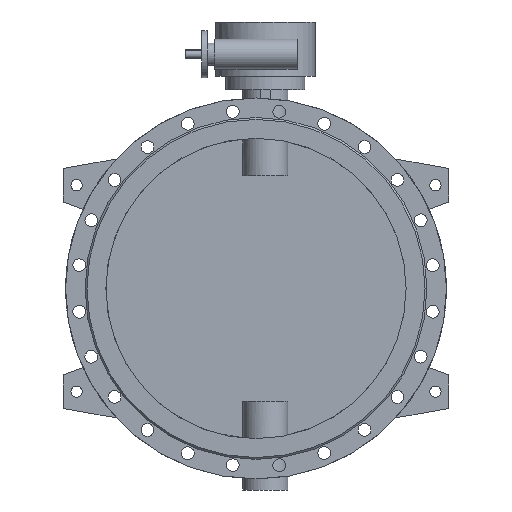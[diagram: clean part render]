
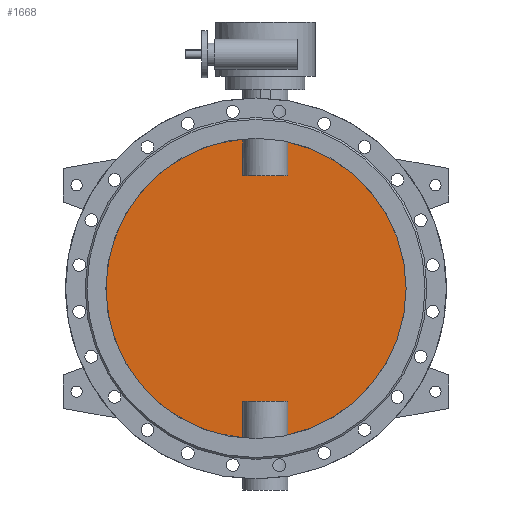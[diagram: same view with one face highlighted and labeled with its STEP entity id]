
A CAD part, front view. The second image highlights one B-rep face of the part: STEP entity #1668.
In plain terms, the highlighted planar face has unit normal (0, -1, 0).
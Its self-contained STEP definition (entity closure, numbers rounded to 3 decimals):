
#1668=ADVANCED_FACE('',(#3500),#3502,.F.);
#3500=FACE_BOUND('',#3501,.T.);
#3501=EDGE_LOOP('',(#4394,#4395,#4396,#4397,#4398,#4399,#4400,#4401));
#3502=PLANE('',#3503);
#3503=AXIS2_PLACEMENT_3D('',#3504,#3505,#3506);
#3504=CARTESIAN_POINT('',(0.,-5.,0.));
#3505=DIRECTION('',(0.,1.,0.));
#3506=DIRECTION('',(1.,0.,0.));
#4394=ORIENTED_EDGE('',*,*,#4841,.T.);
#4395=ORIENTED_EDGE('',*,*,#4847,.T.);
#4396=ORIENTED_EDGE('',*,*,#4848,.T.);
#4397=ORIENTED_EDGE('',*,*,#4849,.T.);
#4398=ORIENTED_EDGE('',*,*,#4843,.T.);
#4399=ORIENTED_EDGE('',*,*,#4850,.T.);
#4400=ORIENTED_EDGE('',*,*,#4851,.T.);
#4401=ORIENTED_EDGE('',*,*,#4852,.T.);
#4841=EDGE_CURVE('',#5577,#5578,#5579,.F.);
#4843=EDGE_CURVE('',#5582,#5580,#5583,.F.);
#4847=EDGE_CURVE('',#5578,#5589,#5590,.T.);
#4848=EDGE_CURVE('',#5589,#5591,#5592,.F.);
#4849=EDGE_CURVE('',#5591,#5582,#5593,.F.);
#4850=EDGE_CURVE('',#5580,#5594,#5595,.F.);
#4851=EDGE_CURVE('',#5594,#5596,#5597,.F.);
#4852=EDGE_CURVE('',#5596,#5577,#5598,.T.);
#5577=VERTEX_POINT('',#8156);
#5578=VERTEX_POINT('',#8157);
#5579=CIRCLE('',#8158,400.);
#5580=VERTEX_POINT('',#8162);
#5582=VERTEX_POINT('',#8269);
#5583=CIRCLE('',#8270,400.);
#5589=VERTEX_POINT('',#8391);
#5590=LINE('',#8392,#8393);
#5591=VERTEX_POINT('',#8395);
#5592=LINE('',#8396,#8397);
#5593=LINE('',#8399,#8400);
#5594=VERTEX_POINT('',#8402);
#5595=LINE('',#8403,#8404);
#5596=VERTEX_POINT('',#8406);
#5597=LINE('',#8407,#8408);
#5598=LINE('',#8410,#8411);
#8156=CARTESIAN_POINT('',(84.791,-5.,-390.91));
#8157=CARTESIAN_POINT('',(84.791,-5.,390.91));
#8158=AXIS2_PLACEMENT_3D('',#8159,#8160,#8161);
#8159=CARTESIAN_POINT('',(0.,-5.,0.));
#8160=DIRECTION('',(0.,1.,0.));
#8161=DIRECTION('',(0.212,0.,0.977));
#8162=CARTESIAN_POINT('',(-34.791,-5.,-398.484));
#8269=CARTESIAN_POINT('',(-34.791,-5.,398.484));
#8270=AXIS2_PLACEMENT_3D('',#8271,#8272,#8273);
#8271=CARTESIAN_POINT('',(0.,-5.,0.));
#8272=DIRECTION('',(0.,1.,0.));
#8273=DIRECTION('',(-0.087,0.,-0.996));
#8391=CARTESIAN_POINT('',(84.791,-5.,300.));
#8392=CARTESIAN_POINT('',(84.791,-5.,390.91));
#8393=VECTOR('',#8394,1.);
#8394=DIRECTION('',(0.,0.,-1.));
#8395=CARTESIAN_POINT('',(-34.791,-5.,300.));
#8396=CARTESIAN_POINT('',(-34.791,-5.,300.));
#8397=VECTOR('',#8398,1.);
#8398=DIRECTION('',(1.,0.,0.));
#8399=CARTESIAN_POINT('',(-34.791,-5.,398.484));
#8400=VECTOR('',#8401,1.);
#8401=DIRECTION('',(0.,0.,-1.));
#8402=CARTESIAN_POINT('',(-34.791,-5.,-300.));
#8403=CARTESIAN_POINT('',(-34.791,-5.,-300.));
#8404=VECTOR('',#8405,1.);
#8405=DIRECTION('',(0.,0.,-1.));
#8406=CARTESIAN_POINT('',(84.791,-5.,-300.));
#8407=CARTESIAN_POINT('',(84.791,-5.,-300.));
#8408=VECTOR('',#8409,1.);
#8409=DIRECTION('',(-1.,0.,0.));
#8410=CARTESIAN_POINT('',(84.791,-5.,-300.));
#8411=VECTOR('',#8412,1.);
#8412=DIRECTION('',(0.,0.,-1.));
